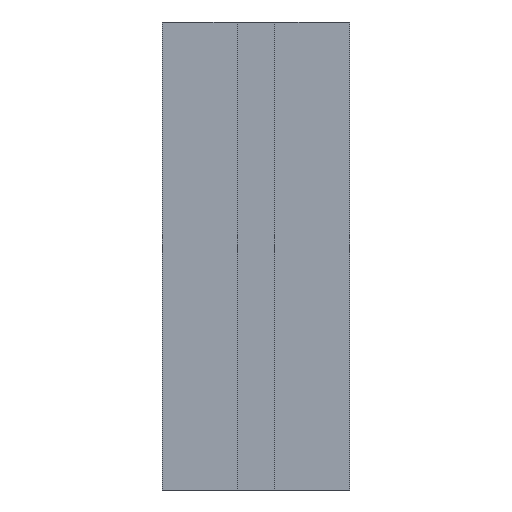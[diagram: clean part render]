
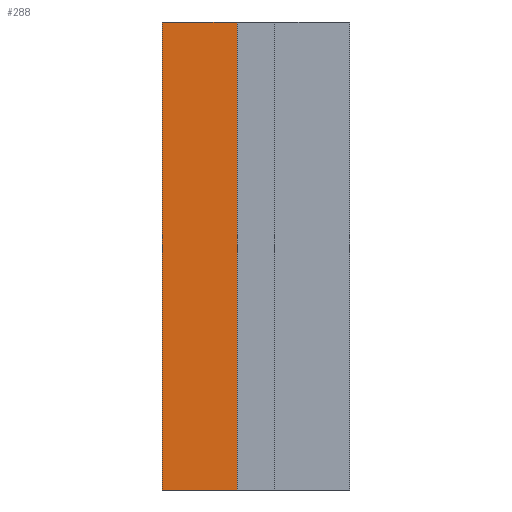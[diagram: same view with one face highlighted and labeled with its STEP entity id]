
A CAD part, left-side view. The second image highlights one B-rep face of the part: STEP entity #288.
In plain terms, the highlighted planar face has unit normal (-1, 0, 0).
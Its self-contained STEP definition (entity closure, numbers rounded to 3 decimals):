
#227=CARTESIAN_POINT('POINT17',(0.,24.,0.)
   );
#228=VERTEX_POINT('VERTEX17',#227);
#236=CARTESIAN_POINT('POINT18',(0.,24.,100.)
   );
#237=VERTEX_POINT('VERTEX18',#236);
#244=CARTESIAN_POINT('POS32',(0.,24.,-1.))
   ;
#245=DIRECTION('DIR39',(0.,0.,1.));
#246=VECTOR('VEC25',#245,1.);
#247=LINE('STRAIGHT25',#244,#246);
#248=EDGE_CURVE('EDGE25',#228,#237,#247,.T.);
#258=CARTESIAN_POINT('POINT19',(0.,40.,0.)
   );
#259=VERTEX_POINT('VERTEX19',#258);
#260=CARTESIAN_POINT('POS34',(0.,32.,0.));
#261=DIRECTION('DIR42',(0.,-1.,0.));
#262=VECTOR('VEC26',#261,1.);
#263=LINE('STRAIGHT26',#260,#262);
#264=EDGE_CURVE('EDGE26',#259,#228,#263,.T.);
#265=ORIENTED_EDGE('COEDGE33',*,*,#264,.T.);
#266=ORIENTED_EDGE('COEDGE34',*,*,#248,.T.);
#267=CARTESIAN_POINT('POINT20',(0.,40.,100.)
   );
#268=VERTEX_POINT('VERTEX20',#267);
#269=CARTESIAN_POINT('POS35',(0.,12.,100.));
#270=DIRECTION('DIR43',(0.,1.,0.));
#271=VECTOR('VEC27',#270,1.);
#272=LINE('STRAIGHT27',#269,#271);
#273=EDGE_CURVE('EDGE27',#237,#268,#272,.T.);
#274=ORIENTED_EDGE('COEDGE35',*,*,#273,.T.);
#275=CARTESIAN_POINT('POS36',(0.,40.,-1.))
   ;
#276=DIRECTION('DIR44',(0.,0.,1.));
#277=VECTOR('VEC28',#276,1.);
#278=LINE('STRAIGHT28',#275,#277);
#279=EDGE_CURVE('EDGE28',#259,#268,#278,.T.);
#280=ORIENTED_EDGE('COEDGE36',*,*,#279,.F.);
#281=EDGE_LOOP('NONE',(#265,#266,#274,#280));
#282=FACE_BOUND('LOOP1',#281,.T.);
#283=CARTESIAN_POINT('POS37',(0.,24.,-1.))
   ;
#284=DIRECTION('DIR45',(-1.,0.,0.));
#285=DIRECTION('DIR46',(0.,1.,0.));
#286=AXIS2_PLACEMENT_3D('AXIS9',#283,#284,#285);
#287=PLANE('PLANE9',#286);
#288=ADVANCED_FACE('FACE9',(#282),#287,.T.);
